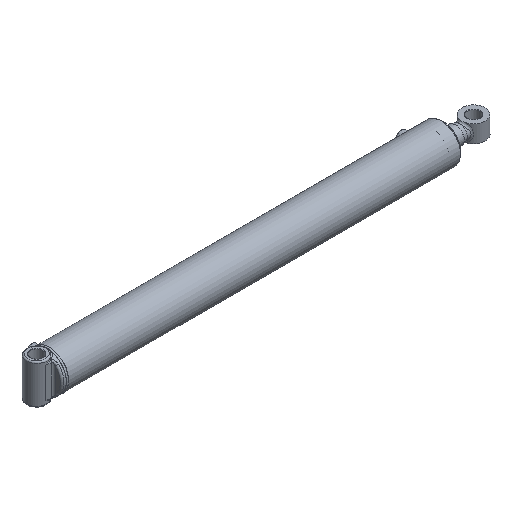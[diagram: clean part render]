
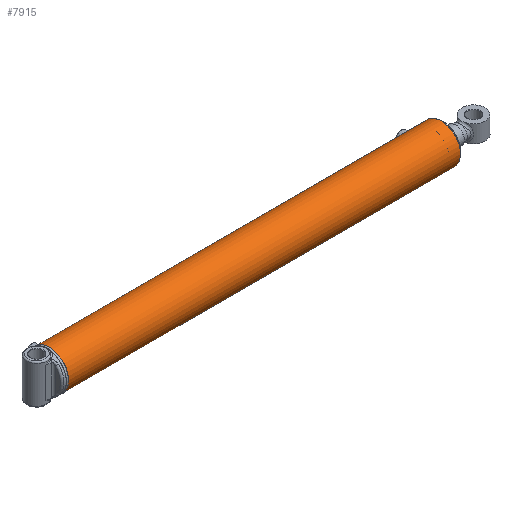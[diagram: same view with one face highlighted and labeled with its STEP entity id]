
A CAD part, isometric view. The second image highlights one B-rep face of the part: STEP entity #7915.
In plain terms, the highlighted cylindrical face has radius 49.212 mm (diameter 98.425 mm), a full revolution.
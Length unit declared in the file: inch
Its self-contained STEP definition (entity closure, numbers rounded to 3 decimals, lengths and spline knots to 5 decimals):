
#653=B_SPLINE_CURVE_WITH_KNOTS('',3,(#11899,#11900,#11901,#11902,#11903,
#11904,#11905,#11906,#11907,#11908),.UNSPECIFIED.,.F.,.F.,(4,2,2,2,4),(0.,
0.17952,0.35904,0.53855,0.71807),
 .UNSPECIFIED.);
#654=B_SPLINE_CURVE_WITH_KNOTS('',3,(#11909,#11910,#11911,#11912,#11913,
#11914,#11915,#11916,#11917,#11918,#11919,#11920,#11921,#11922,#11923,#11924,
#11925,#11926,#11927,#11928,#11929,#11930,#11931,#11932,#11933,#11934),
 .UNSPECIFIED.,.F.,.F.,(4,2,2,2,2,2,2,2,2,2,2,2,4),(0.71807,0.89759,
1.07711,1.25662,1.43614,1.61566,1.79518,
1.97469,2.15421,2.33373,2.51325,2.69276,
2.87228),.UNSPECIFIED.);
#655=B_SPLINE_CURVE_WITH_KNOTS('',3,(#11939,#11940,#11941,#11942,#11943,
#11944,#11945,#11946,#11947,#11948),.UNSPECIFIED.,.F.,.F.,(4,2,2,2,4),(0.,
0.17952,0.35904,0.53855,0.71807),
 .UNSPECIFIED.);
#656=B_SPLINE_CURVE_WITH_KNOTS('',3,(#11949,#11950,#11951,#11952,#11953,
#11954,#11955,#11956,#11957,#11958,#11959,#11960,#11961,#11962,#11963,#11964,
#11965,#11966,#11967,#11968,#11969,#11970,#11971,#11972,#11973,#11974),
 .UNSPECIFIED.,.F.,.F.,(4,2,2,2,2,2,2,2,2,2,2,2,4),(0.71807,0.89759,
1.07711,1.25662,1.43614,1.61566,1.79518,
1.97469,2.15421,2.33373,2.51325,2.69276,
2.87228),.UNSPECIFIED.);
#962=FACE_BOUND('',#2484,.T.);
#963=FACE_BOUND('',#2485,.T.);
#1244=LINE('',#12002,#1570);
#1570=VECTOR('',#9736,1.9375);
#1893=CYLINDRICAL_SURFACE('',#8765,1.9375);
#1987=FACE_OUTER_BOUND('',#2483,.T.);
#2483=EDGE_LOOP('',(#5553,#5554,#5555,#5556,#5557,#5558));
#2484=EDGE_LOOP('',(#5559,#5560));
#2485=EDGE_LOOP('',(#5561,#5562));
#3065=CIRCLE('',#8762,1.9375);
#3067=CIRCLE('',#8764,1.9375);
#3068=CIRCLE('',#8766,1.9375);
#3069=CIRCLE('',#8767,1.9375);
#3547=VERTEX_POINT('',#11896);
#3548=VERTEX_POINT('',#11898);
#3549=VERTEX_POINT('',#11936);
#3550=VERTEX_POINT('',#11938);
#3557=VERTEX_POINT('',#11995);
#3558=VERTEX_POINT('',#11996);
#3559=VERTEX_POINT('',#12001);
#3560=VERTEX_POINT('',#12003);
#4319=EDGE_CURVE('',#3548,#3547,#653,.T.);
#4320=EDGE_CURVE('',#3547,#3548,#654,.T.);
#4322=EDGE_CURVE('',#3550,#3549,#655,.T.);
#4323=EDGE_CURVE('',#3549,#3550,#656,.T.);
#4333=EDGE_CURVE('',#3557,#3558,#3065,.T.);
#4335=EDGE_CURVE('',#3558,#3557,#3067,.T.);
#4336=EDGE_CURVE('',#3557,#3559,#1244,.T.);
#4337=EDGE_CURVE('',#3560,#3559,#3068,.T.);
#4338=EDGE_CURVE('',#3559,#3560,#3069,.T.);
#5553=ORIENTED_EDGE('',*,*,#4333,.F.);
#5554=ORIENTED_EDGE('',*,*,#4336,.T.);
#5555=ORIENTED_EDGE('',*,*,#4337,.F.);
#5556=ORIENTED_EDGE('',*,*,#4338,.F.);
#5557=ORIENTED_EDGE('',*,*,#4336,.F.);
#5558=ORIENTED_EDGE('',*,*,#4335,.F.);
#5559=ORIENTED_EDGE('',*,*,#4319,.T.);
#5560=ORIENTED_EDGE('',*,*,#4320,.T.);
#5561=ORIENTED_EDGE('',*,*,#4322,.T.);
#5562=ORIENTED_EDGE('',*,*,#4323,.T.);
#7915=ADVANCED_FACE('',(#1987,#962,#963),#1893,.T.);
#8762=AXIS2_PLACEMENT_3D('',#11997,#9728,#9729);
#8764=AXIS2_PLACEMENT_3D('',#11999,#9732,#9733);
#8765=AXIS2_PLACEMENT_3D('',#12000,#9734,#9735);
#8766=AXIS2_PLACEMENT_3D('',#12004,#9737,#9738);
#8767=AXIS2_PLACEMENT_3D('',#12005,#9739,#9740);
#9728=DIRECTION('center_axis',(1.,0.,0.));
#9729=DIRECTION('ref_axis',(0.,-1.,0.));
#9732=DIRECTION('center_axis',(1.,0.,0.));
#9733=DIRECTION('ref_axis',(0.,-1.,0.));
#9734=DIRECTION('center_axis',(1.,0.,0.));
#9735=DIRECTION('ref_axis',(0.,-1.,0.));
#9736=DIRECTION('',(-1.,0.,0.));
#9737=DIRECTION('center_axis',(-1.,0.,0.));
#9738=DIRECTION('ref_axis',(0.,-1.,0.));
#9739=DIRECTION('center_axis',(-1.,0.,0.));
#9740=DIRECTION('ref_axis',(0.,-1.,0.));
#11896=CARTESIAN_POINT('',(0.7225,0.,1.9375));
#11898=CARTESIAN_POINT('',(0.91,-0.1875,1.92841));
#11899=CARTESIAN_POINT('Ctrl Pts',(0.91,-0.1875,1.92841));
#11900=CARTESIAN_POINT('Ctrl Pts',(0.88644,-0.1875,1.92841));
#11901=CARTESIAN_POINT('Ctrl Pts',(0.86132,-0.18279,
1.92888));
#11902=CARTESIAN_POINT('Ctrl Pts',(0.81513,-0.16365,
1.9306));
#11903=CARTESIAN_POINT('Ctrl Pts',(0.79406,-0.14922,
1.93182));
#11904=CARTESIAN_POINT('Ctrl Pts',(0.76078,-0.11594,
1.9341));
#11905=CARTESIAN_POINT('Ctrl Pts',(0.74635,-0.09487,
1.93531));
#11906=CARTESIAN_POINT('Ctrl Pts',(0.72721,-0.04868,
1.93703));
#11907=CARTESIAN_POINT('Ctrl Pts',(0.7225,-0.02356,1.9375));
#11908=CARTESIAN_POINT('Ctrl Pts',(0.7225,0.,1.9375));
#11909=CARTESIAN_POINT('Ctrl Pts',(0.7225,0.,1.9375));
#11910=CARTESIAN_POINT('Ctrl Pts',(0.7225,0.02356,1.9375));
#11911=CARTESIAN_POINT('Ctrl Pts',(0.72721,0.04868,
1.93703));
#11912=CARTESIAN_POINT('Ctrl Pts',(0.74635,0.09487,
1.93531));
#11913=CARTESIAN_POINT('Ctrl Pts',(0.76078,0.11594,
1.9341));
#11914=CARTESIAN_POINT('Ctrl Pts',(0.79406,0.14922,
1.93182));
#11915=CARTESIAN_POINT('Ctrl Pts',(0.81513,0.16365,
1.9306));
#11916=CARTESIAN_POINT('Ctrl Pts',(0.86132,0.18279,
1.92888));
#11917=CARTESIAN_POINT('Ctrl Pts',(0.88644,0.1875,1.92841));
#11918=CARTESIAN_POINT('Ctrl Pts',(0.93356,0.1875,1.92841));
#11919=CARTESIAN_POINT('Ctrl Pts',(0.95868,0.18279,
1.92888));
#11920=CARTESIAN_POINT('Ctrl Pts',(1.00487,0.16365,1.9306));
#11921=CARTESIAN_POINT('Ctrl Pts',(1.02594,0.14922,1.93182));
#11922=CARTESIAN_POINT('Ctrl Pts',(1.05922,0.11594,1.9341));
#11923=CARTESIAN_POINT('Ctrl Pts',(1.07365,0.09487,
1.93531));
#11924=CARTESIAN_POINT('Ctrl Pts',(1.09279,0.04868,
1.93703));
#11925=CARTESIAN_POINT('Ctrl Pts',(1.0975,0.02356,1.9375));
#11926=CARTESIAN_POINT('Ctrl Pts',(1.0975,-0.02356,1.9375));
#11927=CARTESIAN_POINT('Ctrl Pts',(1.09279,-0.04868,
1.93703));
#11928=CARTESIAN_POINT('Ctrl Pts',(1.07365,-0.09487,
1.93531));
#11929=CARTESIAN_POINT('Ctrl Pts',(1.05922,-0.11594,
1.9341));
#11930=CARTESIAN_POINT('Ctrl Pts',(1.02594,-0.14922,
1.93182));
#11931=CARTESIAN_POINT('Ctrl Pts',(1.00487,-0.16365,
1.9306));
#11932=CARTESIAN_POINT('Ctrl Pts',(0.95868,-0.18279,
1.92888));
#11933=CARTESIAN_POINT('Ctrl Pts',(0.93356,-0.1875,1.92841));
#11934=CARTESIAN_POINT('Ctrl Pts',(0.91,-0.1875,1.92841));
#11936=CARTESIAN_POINT('',(37.9425,0.,1.9375));
#11938=CARTESIAN_POINT('',(38.13,-0.1875,1.92841));
#11939=CARTESIAN_POINT('Ctrl Pts',(38.13,-0.1875,1.92841));
#11940=CARTESIAN_POINT('Ctrl Pts',(38.10644,-0.1875,
1.92841));
#11941=CARTESIAN_POINT('Ctrl Pts',(38.08132,-0.18279,
1.92888));
#11942=CARTESIAN_POINT('Ctrl Pts',(38.03513,-0.16365,
1.9306));
#11943=CARTESIAN_POINT('Ctrl Pts',(38.01406,-0.14922,1.93182));
#11944=CARTESIAN_POINT('Ctrl Pts',(37.98078,-0.11594,
1.9341));
#11945=CARTESIAN_POINT('Ctrl Pts',(37.96635,-0.09487,
1.93531));
#11946=CARTESIAN_POINT('Ctrl Pts',(37.94721,-0.04868,
1.93703));
#11947=CARTESIAN_POINT('Ctrl Pts',(37.9425,-0.02356,1.9375));
#11948=CARTESIAN_POINT('Ctrl Pts',(37.9425,0.,1.9375));
#11949=CARTESIAN_POINT('Ctrl Pts',(37.9425,0.,1.9375));
#11950=CARTESIAN_POINT('Ctrl Pts',(37.9425,0.02356,1.9375));
#11951=CARTESIAN_POINT('Ctrl Pts',(37.94721,0.04868,
1.93703));
#11952=CARTESIAN_POINT('Ctrl Pts',(37.96635,0.09487,
1.93531));
#11953=CARTESIAN_POINT('Ctrl Pts',(37.98078,0.11594,1.9341));
#11954=CARTESIAN_POINT('Ctrl Pts',(38.01406,0.14922,1.93182));
#11955=CARTESIAN_POINT('Ctrl Pts',(38.03513,0.16365,1.9306));
#11956=CARTESIAN_POINT('Ctrl Pts',(38.08132,0.18279,1.92888));
#11957=CARTESIAN_POINT('Ctrl Pts',(38.10644,0.1875,1.92841));
#11958=CARTESIAN_POINT('Ctrl Pts',(38.15356,0.1875,1.92841));
#11959=CARTESIAN_POINT('Ctrl Pts',(38.17868,0.18279,1.92888));
#11960=CARTESIAN_POINT('Ctrl Pts',(38.22487,0.16365,1.9306));
#11961=CARTESIAN_POINT('Ctrl Pts',(38.24594,0.14922,1.93182));
#11962=CARTESIAN_POINT('Ctrl Pts',(38.27922,0.11594,1.9341));
#11963=CARTESIAN_POINT('Ctrl Pts',(38.29365,0.09487,
1.93531));
#11964=CARTESIAN_POINT('Ctrl Pts',(38.31279,0.04868,
1.93703));
#11965=CARTESIAN_POINT('Ctrl Pts',(38.3175,0.02356,1.9375));
#11966=CARTESIAN_POINT('Ctrl Pts',(38.3175,-0.02356,1.9375));
#11967=CARTESIAN_POINT('Ctrl Pts',(38.31279,-0.04868,
1.93703));
#11968=CARTESIAN_POINT('Ctrl Pts',(38.29365,-0.09487,
1.93531));
#11969=CARTESIAN_POINT('Ctrl Pts',(38.27922,-0.11594,
1.9341));
#11970=CARTESIAN_POINT('Ctrl Pts',(38.24594,-0.14922,1.93182));
#11971=CARTESIAN_POINT('Ctrl Pts',(38.22487,-0.16365,
1.9306));
#11972=CARTESIAN_POINT('Ctrl Pts',(38.17868,-0.18279,
1.92888));
#11973=CARTESIAN_POINT('Ctrl Pts',(38.15356,-0.1875,
1.92841));
#11974=CARTESIAN_POINT('Ctrl Pts',(38.13,-0.1875,1.92841));
#11995=CARTESIAN_POINT('',(39.56,1.9375,0.));
#11996=CARTESIAN_POINT('',(39.56,0.,-1.9375));
#11997=CARTESIAN_POINT('Origin',(39.56,0.,0.));
#11999=CARTESIAN_POINT('Origin',(39.56,0.,0.));
#12000=CARTESIAN_POINT('Origin',(0.,0.,0.));
#12001=CARTESIAN_POINT('',(0.09382,1.9375,0.));
#12002=CARTESIAN_POINT('',(0.,1.9375,0.));
#12003=CARTESIAN_POINT('',(0.09382,0.,1.9375));
#12004=CARTESIAN_POINT('Origin',(0.09382,0.,0.));
#12005=CARTESIAN_POINT('Origin',(0.09382,0.,0.));
